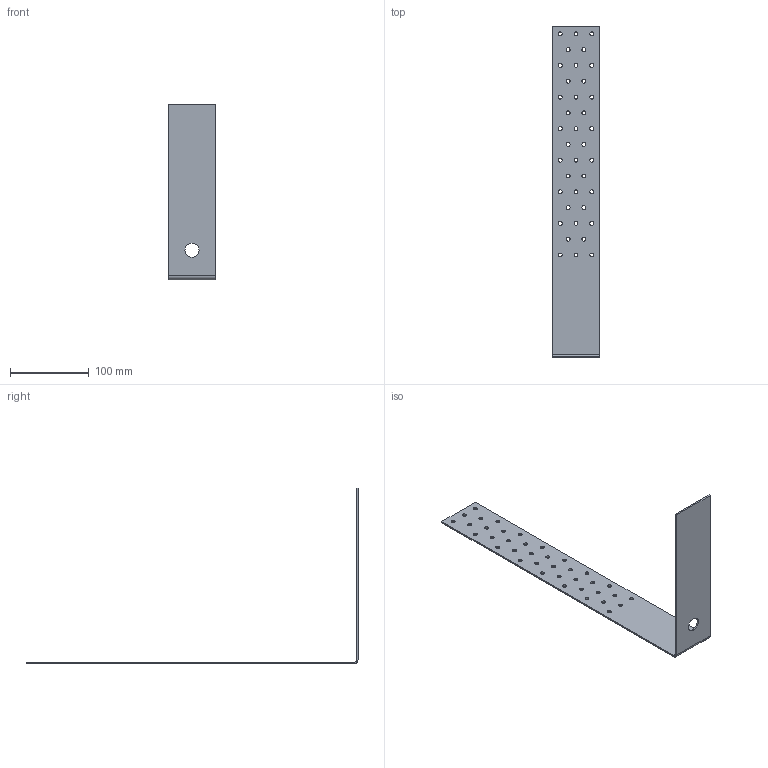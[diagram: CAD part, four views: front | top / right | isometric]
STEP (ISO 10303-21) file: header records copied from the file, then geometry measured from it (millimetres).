
FILE_DESCRIPTION (( 'STEP AP203' ), '1' );
FILE_NAME ('110415.STEP', '2021-03-04T14:43:40', ( '' ), ( '' ), 'SwSTEP 2.0', 'SolidWorks 2013', '' );
FILE_SCHEMA (( 'CONFIG_CONTROL_DESIGN' ));
Length unit declared in the file: millimetre
Products named in the file (1): 110415
Bounding box: 60 x 420.49 x 222.49 mm (x, y, z)
Volume: 74709.6 mm3; surface area: 78813.5 mm2
Topology: 1 solids, 1 shells, 92 faces, 262 edges, 172 vertices
Faces by surface type: cylinder 80, plane 12
Entity records: 3317 total; most frequent: DIRECTION 608, CARTESIAN_POINT 527, ORIENTED_EDGE 524, EDGE_CURVE 262, AXIS2_PLACEMENT_3D 253, VERTEX_POINT 172, EDGE_LOOP 170, CIRCLE 160
